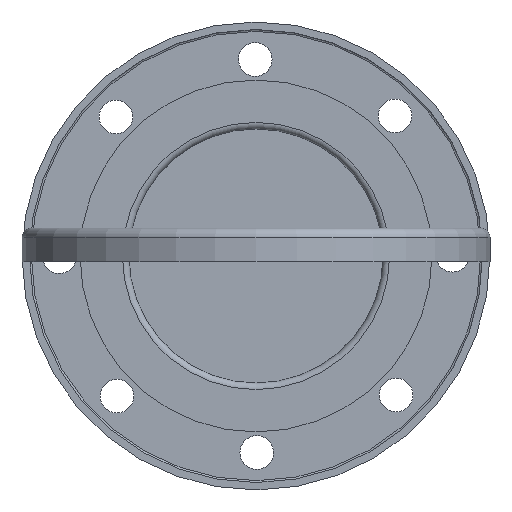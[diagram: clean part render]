
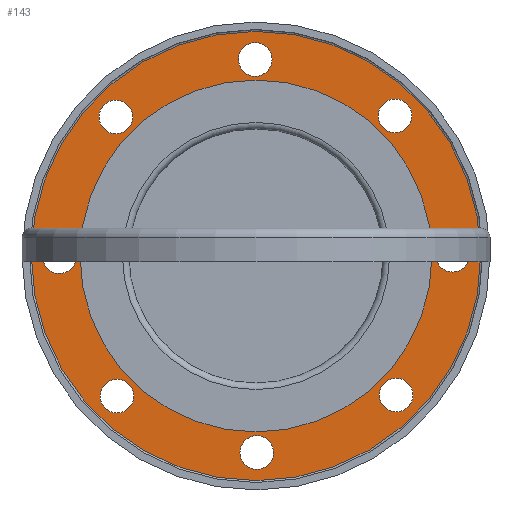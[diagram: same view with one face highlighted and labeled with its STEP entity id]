
A CAD part, front view. The second image highlights one B-rep face of the part: STEP entity #143.
In plain terms, the highlighted planar face has unit normal (0, -1, 0) as drawn and (0, 0, -1) by its records, which use the part's own axes.
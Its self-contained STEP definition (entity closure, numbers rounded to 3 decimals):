
#143 = ADVANCED_FACE( '', ( #323, #324, #325, #326, #327, #328, #329, #330, #331, #332 ), #333, .F. );
#323 = FACE_BOUND( '', #515, .T. );
#324 = FACE_BOUND( '', #516, .T. );
#325 = FACE_BOUND( '', #517, .T. );
#326 = FACE_BOUND( '', #518, .T. );
#327 = FACE_BOUND( '', #519, .T. );
#328 = FACE_BOUND( '', #520, .T. );
#329 = FACE_BOUND( '', #521, .T. );
#330 = FACE_BOUND( '', #522, .T. );
#331 = FACE_BOUND( '', #523, .T. );
#332 = FACE_OUTER_BOUND( '', #524, .T. );
#333 = PLANE( '', #525 );
#515 = EDGE_LOOP( '', ( #768 ) );
#516 = EDGE_LOOP( '', ( #769 ) );
#517 = EDGE_LOOP( '', ( #770 ) );
#518 = EDGE_LOOP( '', ( #771 ) );
#519 = EDGE_LOOP( '', ( #772 ) );
#520 = EDGE_LOOP( '', ( #773 ) );
#521 = EDGE_LOOP( '', ( #774 ) );
#522 = EDGE_LOOP( '', ( #775 ) );
#523 = EDGE_LOOP( '', ( #776 ) );
#524 = EDGE_LOOP( '', ( #777 ) );
#525 = AXIS2_PLACEMENT_3D( '', #778, #779, #780 );
#768 = ORIENTED_EDGE( '', *, *, #898, .T. );
#769 = ORIENTED_EDGE( '', *, *, #887, .T. );
#770 = ORIENTED_EDGE( '', *, *, #868, .T. );
#771 = ORIENTED_EDGE( '', *, *, #896, .T. );
#772 = ORIENTED_EDGE( '', *, *, #842, .T. );
#773 = ORIENTED_EDGE( '', *, *, #820, .T. );
#774 = ORIENTED_EDGE( '', *, *, #862, .T. );
#775 = ORIENTED_EDGE( '', *, *, #899, .T. );
#776 = ORIENTED_EDGE( '', *, *, #889, .F. );
#777 = ORIENTED_EDGE( '', *, *, #846, .T. );
#778 = CARTESIAN_POINT( '', ( -77.5, 0., 10.93 ) );
#779 = DIRECTION( '', ( 0., 0., 1. ) );
#780 = DIRECTION( '', ( 1., 0., 0. ) );
#820 = EDGE_CURVE( '', #910, #910, #911, .T. );
#842 = EDGE_CURVE( '', #949, #949, #950, .T. );
#846 = EDGE_CURVE( '', #955, #955, #956, .F. );
#862 = EDGE_CURVE( '', #981, #981, #982, .T. );
#868 = EDGE_CURVE( '', #990, #990, #991, .T. );
#887 = EDGE_CURVE( '', #1018, #1018, #1019, .T. );
#889 = EDGE_CURVE( '', #1021, #1021, #1022, .F. );
#896 = EDGE_CURVE( '', #1030, #1030, #1031, .T. );
#898 = EDGE_CURVE( '', #1033, #1033, #1034, .T. );
#899 = EDGE_CURVE( '', #1035, #1035, #1036, .T. );
#910 = VERTEX_POINT( '', #1047 );
#911 = CIRCLE( '', #1048, 9. );
#949 = VERTEX_POINT( '', #1086 );
#950 = CIRCLE( '', #1087, 9. );
#955 = VERTEX_POINT( '', #1092 );
#956 = CIRCLE( '', #1093, 120. );
#981 = VERTEX_POINT( '', #1118 );
#982 = CIRCLE( '', #1119, 9. );
#990 = VERTEX_POINT( '', #1127 );
#991 = CIRCLE( '', #1128, 9. );
#1018 = VERTEX_POINT( '', #1155 );
#1019 = CIRCLE( '', #1156, 9. );
#1021 = VERTEX_POINT( '', #1158 );
#1022 = CIRCLE( '', #1159, 89. );
#1030 = VERTEX_POINT( '', #1167 );
#1031 = CIRCLE( '', #1168, 9. );
#1033 = VERTEX_POINT( '', #1170 );
#1034 = CIRCLE( '', #1171, 9. );
#1035 = VERTEX_POINT( '', #1172 );
#1036 = CIRCLE( '', #1173, 9. );
#1047 = CARTESIAN_POINT( '', ( 9., 105., 10.93 ) );
#1048 = AXIS2_PLACEMENT_3D( '', #1183, #1184, #1185 );
#1086 = CARTESIAN_POINT( '', ( 9., -105., 10.93 ) );
#1087 = AXIS2_PLACEMENT_3D( '', #1234, #1235, #1236 );
#1092 = CARTESIAN_POINT( '', ( 120., 0., 10.93 ) );
#1093 = AXIS2_PLACEMENT_3D( '', #1240, #1241, #1242 );
#1118 = CARTESIAN_POINT( '', ( 114., 0., 10.93 ) );
#1119 = AXIS2_PLACEMENT_3D( '', #1270, #1271, #1272 );
#1127 = CARTESIAN_POINT( '', ( 83.553, -74.553, 10.93 ) );
#1128 = AXIS2_PLACEMENT_3D( '', #1279, #1280, #1281 );
#1155 = CARTESIAN_POINT( '', ( -65.553, -74.553, 10.93 ) );
#1156 = AXIS2_PLACEMENT_3D( '', #1306, #1307, #1308 );
#1158 = CARTESIAN_POINT( '', ( 89., 0., 10.93 ) );
#1159 = AXIS2_PLACEMENT_3D( '', #1309, #1310, #1311 );
#1167 = CARTESIAN_POINT( '', ( 83.553, 74.553, 10.93 ) );
#1168 = AXIS2_PLACEMENT_3D( '', #1315, #1316, #1317 );
#1170 = CARTESIAN_POINT( '', ( -65.553, 74.553, 10.93 ) );
#1171 = AXIS2_PLACEMENT_3D( '', #1318, #1319, #1320 );
#1172 = CARTESIAN_POINT( '', ( -96., 0., 10.93 ) );
#1173 = AXIS2_PLACEMENT_3D( '', #1321, #1322, #1323 );
#1183 = CARTESIAN_POINT( '', ( 0., 105., 10.93 ) );
#1184 = DIRECTION( '', ( 0., 0., 1. ) );
#1185 = DIRECTION( '', ( 1., 0., 0. ) );
#1234 = CARTESIAN_POINT( '', ( 0., -105., 10.93 ) );
#1235 = DIRECTION( '', ( 0., 0., 1. ) );
#1236 = DIRECTION( '', ( 1., 0., 0. ) );
#1240 = CARTESIAN_POINT( '', ( 0., 0., 10.93 ) );
#1241 = DIRECTION( '', ( 0., 0., 1. ) );
#1242 = DIRECTION( '', ( 1., 0., 0. ) );
#1270 = CARTESIAN_POINT( '', ( 105., 0., 10.93 ) );
#1271 = DIRECTION( '', ( 0., 0., 1. ) );
#1272 = DIRECTION( '', ( 1., 0., 0. ) );
#1279 = CARTESIAN_POINT( '', ( 74.553, -74.553, 10.93 ) );
#1280 = DIRECTION( '', ( 0., 0., 1. ) );
#1281 = DIRECTION( '', ( 1., 0., 0. ) );
#1306 = CARTESIAN_POINT( '', ( -74.553, -74.553, 10.93 ) );
#1307 = DIRECTION( '', ( 0., 0., 1. ) );
#1308 = DIRECTION( '', ( 1., 0., 0. ) );
#1309 = CARTESIAN_POINT( '', ( 0., 0., 10.93 ) );
#1310 = DIRECTION( '', ( 0., 0., 1. ) );
#1311 = DIRECTION( '', ( 1., 0., 0. ) );
#1315 = CARTESIAN_POINT( '', ( 74.553, 74.553, 10.93 ) );
#1316 = DIRECTION( '', ( 0., 0., 1. ) );
#1317 = DIRECTION( '', ( 1., 0., 0. ) );
#1318 = CARTESIAN_POINT( '', ( -74.553, 74.553, 10.93 ) );
#1319 = DIRECTION( '', ( 0., 0., 1. ) );
#1320 = DIRECTION( '', ( 1., 0., 0. ) );
#1321 = CARTESIAN_POINT( '', ( -105., 0., 10.93 ) );
#1322 = DIRECTION( '', ( 0., 0., 1. ) );
#1323 = DIRECTION( '', ( 1., 0., 0. ) );
